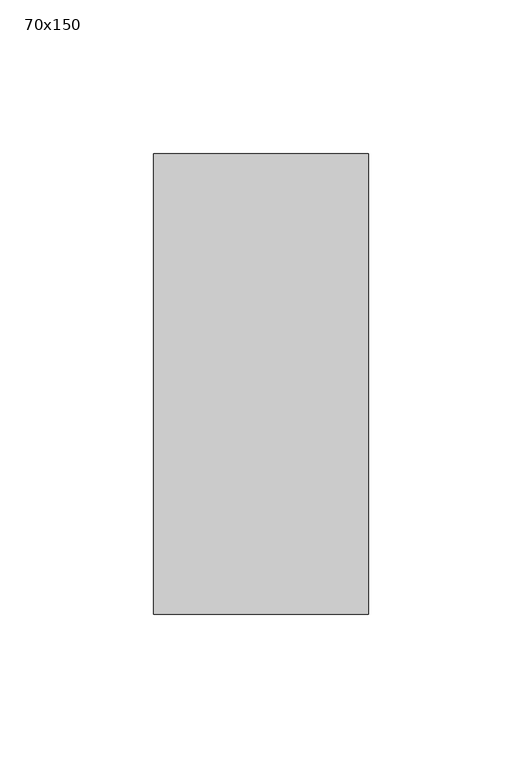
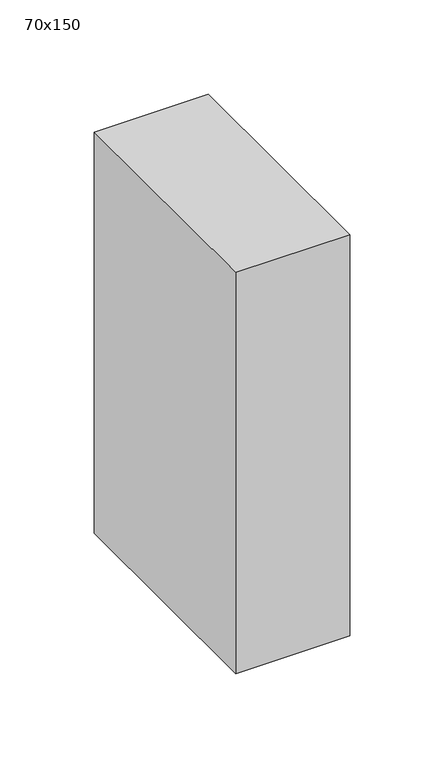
"""IFC4 building model written with IfcOpenShell, lengths in millimetres: member geometry, 長方形のマリオン : 70x150."""

from ifc_helpers import new_model, si_unit, frame, origin, place, context, project, spatial, polyline, outline, extrude, source, transform, mapped, element, save


def member_70x150_a15bb337(model_context):
    return source(origin(), model_context, "Body", "SweptSolid", [
        extrude(outline(polyline([(0.0, 75.0), (0.0, -75.0), (-70.0, -75.0), (-70.0, 75.0), (0.0, 75.0)])), frame((0.0, 0.0, -260.0), z_axis=(0.0, 0.0, 1.0), x_axis=(1.0, 0.0, 0.0)), (0.0, 0.0, 1.0), 260.0),
    ])


if __name__ == "__main__":
    model = new_model("IFC4")
    model_context = context("Model", 3, world=origin())
    ifc_project = project(units=[si_unit("LENGTHUNIT", "METRE", prefix="MILLI")], contexts=[model_context])
    site = spatial("IfcSite", under=ifc_project)
    building = spatial("IfcBuilding", under=site)
    placement = place(None, origin())
    member_70x150_shape = member_70x150_a15bb337(model_context)
    element("IfcMember", 1, ObjectType="長方形のマリオン : 70x150", at=placement, inside=building, context=model_context, shape_type="MappedRepresentation", body=[
        mapped(member_70x150_shape, transform((0.0, 0.0, 0.0), x_axis=(1.0, 0.0, 0.0), y_axis=(0.0, 1.0, 0.0), z_axis=(0.0, 0.0, 1.0))),
    ])
    save(model, "model.ifc")
